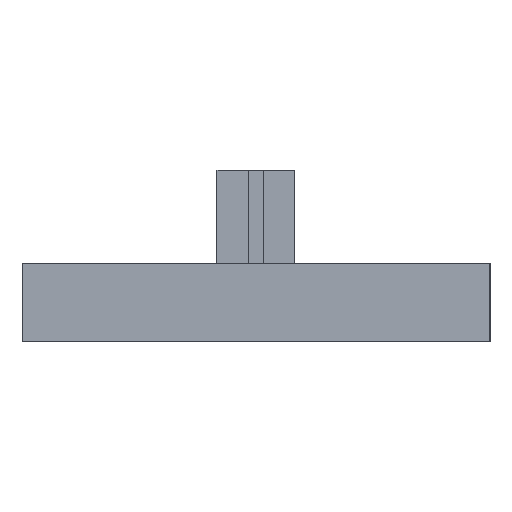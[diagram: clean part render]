
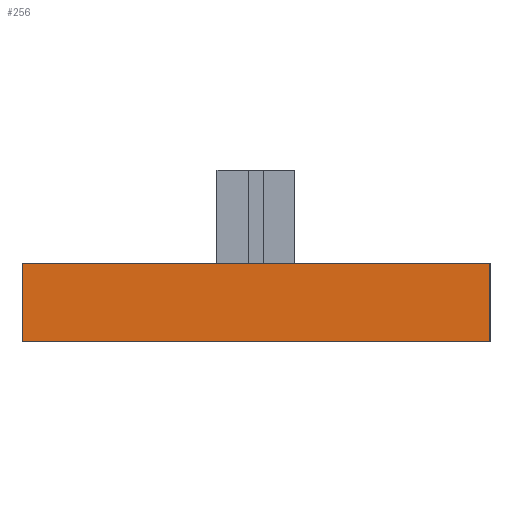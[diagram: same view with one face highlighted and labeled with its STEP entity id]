
A CAD part, left-side view. The second image highlights one B-rep face of the part: STEP entity #256.
In plain terms, the highlighted planar face has unit normal (-1, 0, 0).
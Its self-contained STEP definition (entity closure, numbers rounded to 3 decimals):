
#7 = CARTESIAN_POINT ( 'NONE',  ( -30., 15., 2.5 ) ) ;
#43 = CARTESIAN_POINT ( 'NONE',  ( -30., 15., -2.5 ) ) ;
#136 = VERTEX_POINT ( 'NONE', #811 ) ;
#157 = EDGE_CURVE ( 'NONE', #136, #413, #780, .T. ) ;
#162 = EDGE_CURVE ( 'NONE', #939, #136, #1117, .T. ) ;
#164 = LINE ( 'NONE', #43, #725 ) ;
#212 = CARTESIAN_POINT ( 'NONE',  ( -30., -15., -2.5 ) ) ;
#218 = DIRECTION ( 'NONE',  ( 0., 0., -1. ) ) ;
#256 = ADVANCED_FACE ( 'NONE', ( #395 ), #412, .F. ) ;
#275 = AXIS2_PLACEMENT_3D ( 'NONE', #1004, #885, #763 ) ;
#298 = CARTESIAN_POINT ( 'NONE',  ( -30., 15., -2.5 ) ) ;
#338 = CARTESIAN_POINT ( 'NONE',  ( -30., 15., 2.5 ) ) ;
#395 = FACE_OUTER_BOUND ( 'NONE', #985, .T. ) ;
#412 = PLANE ( 'NONE',  #275 ) ;
#413 = VERTEX_POINT ( 'NONE', #212 ) ;
#415 = VECTOR ( 'NONE', #218, 1000. ) ;
#464 = LINE ( 'NONE', #338, #415 ) ;
#526 = EDGE_CURVE ( 'NONE', #939, #768, #464, .T. ) ;
#533 = DIRECTION ( 'NONE',  ( 0., 0., -1. ) ) ;
#661 = CARTESIAN_POINT ( 'NONE',  ( -30., -15., 2.5 ) ) ;
#725 = VECTOR ( 'NONE', #1116, 1000. ) ;
#763 = DIRECTION ( 'NONE',  ( 0., 1., 0. ) ) ;
#764 = ORIENTED_EDGE ( 'NONE', *, *, #162, .F. ) ;
#768 = VERTEX_POINT ( 'NONE', #298 ) ;
#780 = LINE ( 'NONE', #661, #865 ) ;
#792 = ORIENTED_EDGE ( 'NONE', *, *, #526, .T. ) ;
#811 = CARTESIAN_POINT ( 'NONE',  ( -30., -15., 2.5 ) ) ;
#865 = VECTOR ( 'NONE', #533, 1000. ) ;
#876 = DIRECTION ( 'NONE',  ( 0., -1., 0. ) ) ;
#885 = DIRECTION ( 'NONE',  ( 1., 0., 0. ) ) ;
#896 = VECTOR ( 'NONE', #876, 1000. ) ;
#939 = VERTEX_POINT ( 'NONE', #7 ) ;
#953 = ORIENTED_EDGE ( 'NONE', *, *, #157, .F. ) ;
#985 = EDGE_LOOP ( 'NONE', ( #1036, #953, #764, #792 ) ) ;
#1000 = CARTESIAN_POINT ( 'NONE',  ( -30., 15., 2.5 ) ) ;
#1004 = CARTESIAN_POINT ( 'NONE',  ( -30., 15., 2.5 ) ) ;
#1008 = EDGE_CURVE ( 'NONE', #768, #413, #164, .T. ) ;
#1036 = ORIENTED_EDGE ( 'NONE', *, *, #1008, .T. ) ;
#1116 = DIRECTION ( 'NONE',  ( 0., -1., 0. ) ) ;
#1117 = LINE ( 'NONE', #1000, #896 ) ;
